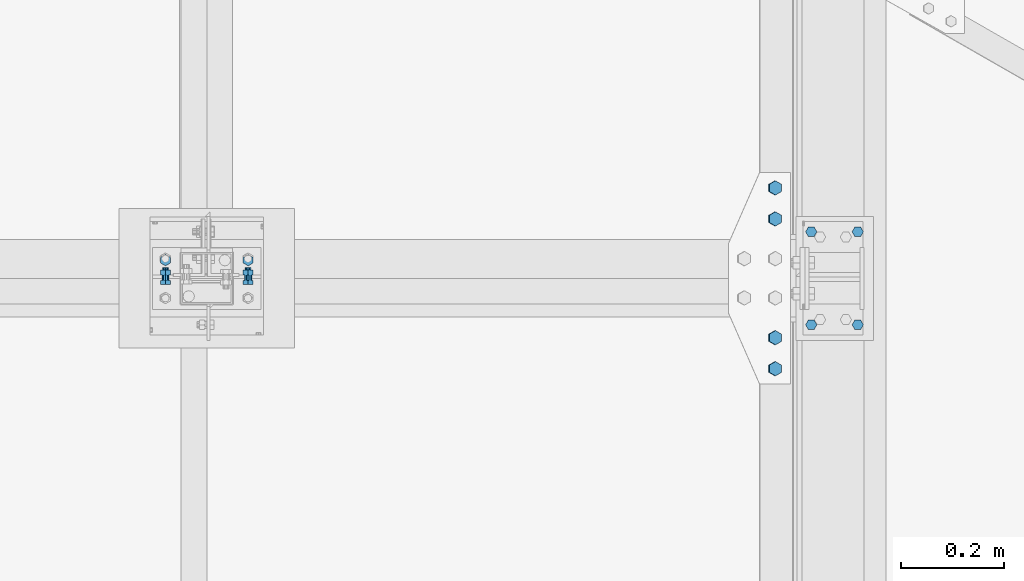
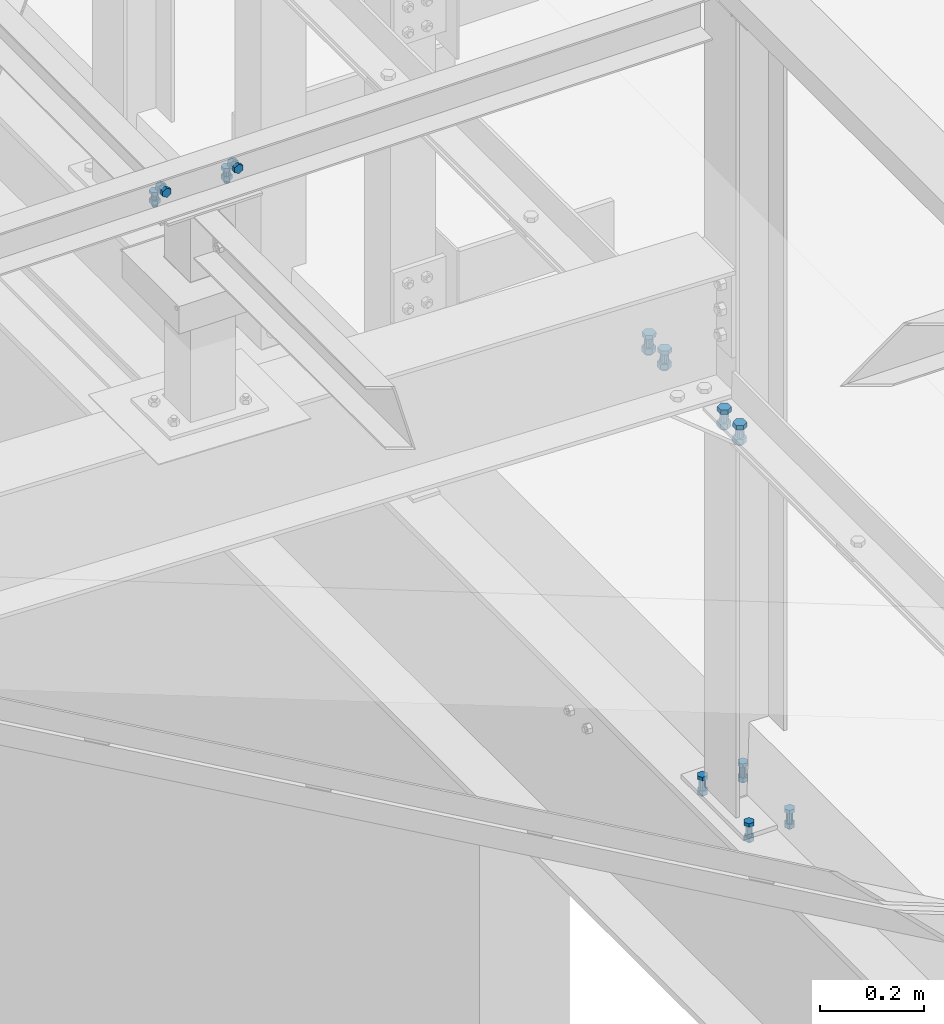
# One storey, part 360 of 3134: 5 mechanical fasteners, 4 elements without a shape of their own.
"""IFC2X3 building model written with IfcOpenShell, lengths in millimetres."""

from ifc_helpers import new_model, si_unit, frame, origin_with_axes, place, context, subcontext, project, spatial, faceted_brep, source, transform, mapped, material, type_object, element, aggregate, save


model = new_model("IFC2X3")

# Units and contexts
model_context = context("Model", 3, precision=1e-05, world=origin_with_axes())
body_context = subcontext(model_context, "Body", "Model", "MODEL_VIEW")
ifc_project = project(units=[si_unit("LENGTHUNIT", "METRE", prefix="MILLI"), si_unit("AREAUNIT", "SQUARE_METRE"), si_unit("VOLUMEUNIT", "CUBIC_METRE"), si_unit("MASSUNIT", "GRAM", prefix="KILO"), si_unit("TIMEUNIT", "SECOND"), si_unit("PLANEANGLEUNIT", "RADIAN"), si_unit("SOLIDANGLEUNIT", "STERADIAN"), si_unit("THERMODYNAMICTEMPERATUREUNIT", "DEGREE_CELSIUS"), si_unit("LUMINOUSINTENSITYUNIT", "LUMEN")], contexts=[model_context])

# Site, building, storey
site_placement = place(None, origin_with_axes())
site = spatial("IfcSite", under=ifc_project, at=site_placement, CompositionType="ELEMENT")
building_placement = place(site_placement, origin_with_axes())
building = spatial("IfcBuilding", under=site, at=building_placement, Name="Undefined", CompositionType="ELEMENT")
storey_placement = place(building_placement, origin_with_axes())
storey = spatial("IfcBuildingStorey", under=building, at=storey_placement, Name="Undefined", CompositionType="ELEMENT", Elevation=0.0)

# Assembly, mechanical fasteners
assembly_1_placement = place(storey_placement, origin_with_axes())
assembly_1 = element("IfcElementAssembly", 1, at=assembly_1_placement, inside=storey, AssemblyPlace="NOTDEFINED", PredefinedType="RIGID_FRAME")
ifc_material = material(Name="8.8")
mechanical_fastener_type = type_object("IfcMechanicalFastenerType", Name="Bolt assembly")
shared_shape_1 = source(origin_with_axes(), body_context, "Body", "Brep", [
    faceted_brep([(10.9696551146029, -14.0, 0.0), (5.48482755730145, -14.0, 9.5), (-5.48482755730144, -14.0, 9.5), (-10.9696551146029, -14.0, 1.34339530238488e-15), (-5.48482755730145, -14.0, -9.5), (5.48482755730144, -14.0, -9.50000000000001), (5.48482755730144, -6.0, -9.50000000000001), (-5.48482755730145, -6.0, -9.5), (-10.9696551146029, -6.0, 1.34339530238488e-15), (-5.48482755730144, -6.0, 9.5), (5.48482755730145, -6.0, 9.5), (10.9696551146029, -6.0, 0.0), (6.0, -6.0, 0.0), (5.19615242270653, -6.0, 3.00000000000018), (2.99999999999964, -6.0, 5.19615242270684), (-6.21801588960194e-13, -6.0, 6.0), (-3.00000000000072, -6.0, 5.19615242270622), (-5.19615242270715, -6.0, 2.9999999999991), (-6.0, -6.0, -1.24360317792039e-12), (-5.19615242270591, -6.0, -3.00000000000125), (-2.99999999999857, -6.0, -5.19615242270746), (1.85874342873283e-12, -6.0, -6.0), (3.00000000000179, -6.0, -5.1961524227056), (5.19615242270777, -6.0, -2.99999999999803), (5.19615242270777, 24.0, -2.99999999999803), (3.00000000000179, 24.0, -5.1961524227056), (1.85874342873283e-12, 24.0, -6.0), (-2.99999999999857, 24.0, -5.19615242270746), (-5.19615242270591, 24.0, -3.00000000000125), (-6.0, 24.0, -1.24360317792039e-12), (-5.19615242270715, 24.0, 2.9999999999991), (-3.00000000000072, 24.0, 5.19615242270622), (-6.21801588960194e-13, 24.0, 6.0), (2.99999999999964, 24.0, 5.19615242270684), (5.19615242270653, 24.0, 3.00000000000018), (6.0, 24.0, 0.0), (10.9696551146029, 6.00000000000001, 0.0), (5.48482755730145, 6.00000000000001, 9.5), (-5.48482755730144, 6.00000000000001, 9.5), (-10.9696551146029, 6.00000000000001, 1.34339530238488e-15), (-5.48482755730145, 6.00000000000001, -9.5), (5.48482755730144, 6.00000000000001, -9.50000000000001), (5.48482755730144, 16.0, -9.50000000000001), (-5.48482755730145, 16.0, -9.5), (-10.9696551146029, 16.0, 1.34339530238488e-15), (-5.48482755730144, 16.0, 9.5), (5.48482755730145, 16.0, 9.5), (10.9696551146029, 16.0, 0.0)], [[[0, 1, 2, 3, 4, 5]], [[6, 7, 8, 9, 10, 11]], [[0, 11, 10, 1]], [[1, 10, 9, 2]], [[2, 9, 8, 3]], [[3, 8, 7, 4]], [[4, 7, 6, 5]], [[5, 6, 11, 0]], [[12, 13, 14, 15, 16, 17, 18, 19, 20, 21, 22, 23]], [[24, 25, 26, 27, 28, 29, 30, 31, 32, 33, 34, 35]], [[12, 35, 34, 13]], [[13, 34, 33, 14]], [[14, 33, 32, 15]], [[15, 32, 31, 16]], [[16, 31, 30, 17]], [[17, 30, 29, 18]], [[18, 29, 28, 19]], [[19, 28, 27, 20]], [[20, 27, 26, 21]], [[21, 26, 25, 22]], [[22, 25, 24, 23]], [[23, 24, 35, 12]], [[36, 37, 38, 39, 40, 41]], [[42, 43, 44, 45, 46, 47]], [[36, 47, 46, 37]], [[37, 46, 45, 38]], [[38, 45, 44, 39]], [[39, 44, 43, 40]], [[40, 43, 42, 41]], [[41, 42, 47, 36]]]),
    faceted_brep([(7.0, -0.1, 0.0), (6.06217782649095, -0.1, 3.50000000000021), (3.49999999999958, -0.1, 6.06217782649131), (-7.25435187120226e-13, -0.1, 7.0), (-3.50000000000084, -0.1, 6.06217782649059), (-6.06217782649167, -0.1, 3.49999999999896), (-7.0, -0.1, -1.45087037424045e-12), (-6.06217782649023, -0.1, -3.50000000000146), (-3.49999999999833, -0.1, -6.06217782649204), (2.1685340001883e-12, -0.1, -7.0), (3.50000000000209, -0.1, -6.06217782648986), (6.0621778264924, -0.1, -3.4999999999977), (6.0621778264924, 6.00000000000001, -3.4999999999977), (3.50000000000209, 6.00000000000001, -6.06217782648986), (2.1685340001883e-12, 6.00000000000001, -7.0), (-3.49999999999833, 6.00000000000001, -6.06217782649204), (-6.06217782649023, 6.00000000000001, -3.50000000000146), (-7.0, 6.00000000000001, -1.45087037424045e-12), (-6.06217782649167, 6.00000000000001, 3.49999999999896), (-3.50000000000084, 6.00000000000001, 6.06217782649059), (-7.25435187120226e-13, 6.00000000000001, 7.0), (3.49999999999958, 6.00000000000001, 6.06217782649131), (6.06217782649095, 6.00000000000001, 3.50000000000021), (7.0, 6.00000000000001, 0.0), (7.0, -5.9, 0.0), (6.06217782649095, -5.9, 3.50000000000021), (3.49999999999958, -5.9, 6.06217782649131), (-7.25435187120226e-13, -5.9, 7.0), (-3.50000000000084, -5.9, 6.06217782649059), (-6.06217782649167, -5.9, 3.49999999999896), (-7.0, -5.9, -1.45087037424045e-12), (-6.06217782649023, -5.9, -3.50000000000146), (-3.49999999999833, -5.9, -6.06217782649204), (2.1685340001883e-12, -5.9, -7.0), (3.50000000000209, -5.9, -6.06217782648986), (6.0621778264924, -5.9, -3.4999999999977), (6.0621778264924, 0.0999999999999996, -3.4999999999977), (3.50000000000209, 0.0999999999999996, -6.06217782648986), (2.1685340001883e-12, 0.0999999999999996, -7.0), (-3.49999999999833, 0.0999999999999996, -6.06217782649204), (-6.06217782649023, 0.0999999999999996, -3.50000000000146), (-7.0, 0.0999999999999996, -1.45087037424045e-12), (-6.06217782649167, 0.0999999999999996, 3.49999999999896), (-3.50000000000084, 0.0999999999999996, 6.06217782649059), (-7.25435187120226e-13, 0.0999999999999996, 7.0), (3.49999999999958, 0.0999999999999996, 6.06217782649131), (6.06217782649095, 0.0999999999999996, 3.50000000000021), (7.0, 0.0999999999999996, 0.0)], [[[0, 1, 2, 3, 4, 5, 6, 7, 8, 9, 10, 11]], [[12, 13, 14, 15, 16, 17, 18, 19, 20, 21, 22, 23]], [[0, 23, 22, 1]], [[1, 22, 21, 2]], [[2, 21, 20, 3]], [[3, 20, 19, 4]], [[4, 19, 18, 5]], [[5, 18, 17, 6]], [[6, 17, 16, 7]], [[7, 16, 15, 8]], [[8, 15, 14, 9]], [[9, 14, 13, 10]], [[10, 13, 12, 11]], [[11, 12, 23, 0]], [[24, 25, 26, 27, 28, 29, 30, 31, 32, 33, 34, 35]], [[36, 37, 38, 39, 40, 41, 42, 43, 44, 45, 46, 47]], [[24, 47, 46, 25]], [[25, 46, 45, 26]], [[26, 45, 44, 27]], [[27, 44, 43, 28]], [[28, 43, 42, 29]], [[29, 42, 41, 30]], [[30, 41, 40, 31]], [[31, 40, 39, 32]], [[32, 39, 38, 33]], [[33, 38, 37, 34]], [[34, 37, 36, 35]], [[35, 36, 47, 24]]]),
])
mechanical_fastener_1_placement = place(assembly_1_placement, frame((70600.0, 17125.0, 5850.0), z_axis=(1.0, 0.0, 0.0), x_axis=(0.0, -1.0, 0.0)))
mechanical_fastener_1 = element("IfcMechanicalFastener", 2, at=mechanical_fastener_1_placement, type_object=mechanical_fastener_type, material=ifc_material, Name="Bolt assembly", NominalDiameter=12.0, NominalLength=30.0, context=body_context, shape_type="MappedRepresentation", body=[
    mapped(shared_shape_1, transform((0.0, -5.32963895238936e-10, -79.9999999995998))),
    mapped(shared_shape_1, transform((0.0, 5.3114490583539e-10, 79.9999999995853))),
])
shared_shape_2 = source(origin_with_axes(), body_context, "Body", "Brep", [
    faceted_brep([(10.9696551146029, -12.0, 0.0), (5.48482755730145, -12.0, 9.5), (-5.48482755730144, -12.0, 9.5), (-10.9696551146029, -12.0, 1.34339530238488e-15), (-5.48482755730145, -12.0, -9.5), (5.48482755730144, -12.0, -9.50000000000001), (5.48482755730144, -4.0, -9.50000000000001), (-5.48482755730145, -4.0, -9.5), (-10.9696551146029, -4.0, 1.34339530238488e-15), (-5.48482755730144, -4.0, 9.5), (5.48482755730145, -4.0, 9.5), (10.9696551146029, -4.0, 0.0), (6.0, -4.0, 0.0), (5.19615242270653, -4.0, 3.00000000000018), (2.99999999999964, -4.0, 5.19615242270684), (-6.21801588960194e-13, -4.0, 6.0), (-3.00000000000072, -4.0, 5.19615242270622), (-5.19615242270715, -4.0, 2.9999999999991), (-6.0, -4.0, -1.24360317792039e-12), (-5.19615242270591, -4.0, -3.00000000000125), (-2.99999999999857, -4.0, -5.19615242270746), (1.85874342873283e-12, -4.0, -6.0), (3.00000000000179, -4.0, -5.1961524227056), (5.19615242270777, -4.0, -2.99999999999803), (5.19615242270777, 21.0, -2.99999999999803), (3.00000000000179, 21.0, -5.1961524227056), (1.85874342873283e-12, 21.0, -6.0), (-2.99999999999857, 21.0, -5.19615242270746), (-5.19615242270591, 21.0, -3.00000000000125), (-6.0, 21.0, -1.24360317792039e-12), (-5.19615242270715, 21.0, 2.9999999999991), (-3.00000000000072, 21.0, 5.19615242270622), (-6.21801588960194e-13, 21.0, 6.0), (2.99999999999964, 21.0, 5.19615242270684), (5.19615242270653, 21.0, 3.00000000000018), (6.0, 21.0, 0.0), (10.9696551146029, 6.00000000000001, 0.0), (5.48482755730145, 6.00000000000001, 9.5), (-5.48482755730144, 6.00000000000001, 9.5), (-10.9696551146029, 6.00000000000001, 1.34339530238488e-15), (-5.48482755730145, 6.00000000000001, -9.5), (5.48482755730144, 6.00000000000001, -9.50000000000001), (5.48482755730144, 16.0, -9.50000000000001), (-5.48482755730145, 16.0, -9.5), (-10.9696551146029, 16.0, 1.34339530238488e-15), (-5.48482755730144, 16.0, 9.5), (5.48482755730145, 16.0, 9.5), (10.9696551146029, 16.0, 0.0)], [[[0, 1, 2, 3, 4, 5]], [[6, 7, 8, 9, 10, 11]], [[0, 11, 10, 1]], [[1, 10, 9, 2]], [[2, 9, 8, 3]], [[3, 8, 7, 4]], [[4, 7, 6, 5]], [[5, 6, 11, 0]], [[12, 13, 14, 15, 16, 17, 18, 19, 20, 21, 22, 23]], [[24, 25, 26, 27, 28, 29, 30, 31, 32, 33, 34, 35]], [[12, 35, 34, 13]], [[13, 34, 33, 14]], [[14, 33, 32, 15]], [[15, 32, 31, 16]], [[16, 31, 30, 17]], [[17, 30, 29, 18]], [[18, 29, 28, 19]], [[19, 28, 27, 20]], [[20, 27, 26, 21]], [[21, 26, 25, 22]], [[22, 25, 24, 23]], [[23, 24, 35, 12]], [[36, 37, 38, 39, 40, 41]], [[42, 43, 44, 45, 46, 47]], [[36, 47, 46, 37]], [[37, 46, 45, 38]], [[38, 45, 44, 39]], [[39, 44, 43, 40]], [[40, 43, 42, 41]], [[41, 42, 47, 36]]]),
    faceted_brep([(7.0, -3.9, 0.0), (6.06217782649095, -3.9, 3.50000000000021), (3.49999999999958, -3.9, 6.06217782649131), (-7.25435187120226e-13, -3.9, 7.0), (-3.50000000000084, -3.9, 6.06217782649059), (-6.06217782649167, -3.9, 3.49999999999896), (-7.0, -3.9, -1.45087037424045e-12), (-6.06217782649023, -3.9, -3.50000000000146), (-3.49999999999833, -3.9, -6.06217782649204), (2.1685340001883e-12, -3.9, -7.0), (3.50000000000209, -3.9, -6.06217782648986), (6.0621778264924, -3.9, -3.4999999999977), (6.0621778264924, 0.0999999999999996, -3.4999999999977), (3.50000000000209, 0.0999999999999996, -6.06217782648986), (2.1685340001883e-12, 0.0999999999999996, -7.0), (-3.49999999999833, 0.0999999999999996, -6.06217782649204), (-6.06217782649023, 0.0999999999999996, -3.50000000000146), (-7.0, 0.0999999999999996, -1.45087037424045e-12), (-6.06217782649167, 0.0999999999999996, 3.49999999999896), (-3.50000000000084, 0.0999999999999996, 6.06217782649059), (-7.25435187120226e-13, 0.0999999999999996, 7.0), (3.49999999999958, 0.0999999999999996, 6.06217782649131), (6.06217782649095, 0.0999999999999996, 3.50000000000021), (7.0, 0.0999999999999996, 0.0), (7.0, -0.1, 0.0), (6.06217782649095, -0.1, 3.50000000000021), (3.49999999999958, -0.1, 6.06217782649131), (-7.25435187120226e-13, -0.1, 7.0), (-3.50000000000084, -0.1, 6.06217782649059), (-6.06217782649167, -0.1, 3.49999999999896), (-7.0, -0.1, -1.45087037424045e-12), (-6.06217782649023, -0.1, -3.50000000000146), (-3.49999999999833, -0.1, -6.06217782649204), (2.1685340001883e-12, -0.1, -7.0), (3.50000000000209, -0.1, -6.06217782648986), (6.0621778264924, -0.1, -3.4999999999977), (6.0621778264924, 6.00000000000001, -3.4999999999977), (3.50000000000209, 6.00000000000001, -6.06217782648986), (2.1685340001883e-12, 6.00000000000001, -7.0), (-3.49999999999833, 6.00000000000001, -6.06217782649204), (-6.06217782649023, 6.00000000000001, -3.50000000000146), (-7.0, 6.00000000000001, -1.45087037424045e-12), (-6.06217782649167, 6.00000000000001, 3.49999999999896), (-3.50000000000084, 6.00000000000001, 6.06217782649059), (-7.25435187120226e-13, 6.00000000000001, 7.0), (3.49999999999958, 6.00000000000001, 6.06217782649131), (6.06217782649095, 6.00000000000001, 3.50000000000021), (7.0, 6.00000000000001, 0.0)], [[[0, 1, 2, 3, 4, 5, 6, 7, 8, 9, 10, 11]], [[12, 13, 14, 15, 16, 17, 18, 19, 20, 21, 22, 23]], [[0, 23, 22, 1]], [[1, 22, 21, 2]], [[2, 21, 20, 3]], [[3, 20, 19, 4]], [[4, 19, 18, 5]], [[5, 18, 17, 6]], [[6, 17, 16, 7]], [[7, 16, 15, 8]], [[8, 15, 14, 9]], [[9, 14, 13, 10]], [[10, 13, 12, 11]], [[11, 12, 23, 0]], [[24, 25, 26, 27, 28, 29, 30, 31, 32, 33, 34, 35]], [[36, 37, 38, 39, 40, 41, 42, 43, 44, 45, 46, 47]], [[24, 47, 46, 25]], [[25, 46, 45, 26]], [[26, 45, 44, 27]], [[27, 44, 43, 28]], [[28, 43, 42, 29]], [[29, 42, 41, 30]], [[30, 41, 40, 31]], [[31, 40, 39, 32]], [[32, 39, 38, 33]], [[33, 38, 37, 34]], [[34, 37, 36, 35]], [[35, 36, 47, 24]]]),
])
mechanical_fastener_2_placement = place(assembly_1_placement, frame((70600.0, 17090.0, 5885.0), z_axis=(1.0, 0.0, 0.0), x_axis=(0.0, 0.0, -1.0)))
mechanical_fastener_2 = element("IfcMechanicalFastener", 3, at=mechanical_fastener_2_placement, type_object=mechanical_fastener_type, material=ifc_material, Name="Bolt assembly", NominalDiameter=12.0, NominalLength=25.0, context=body_context, shape_type="MappedRepresentation", body=[
    mapped(shared_shape_2, transform((0.0, -5.32963895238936e-10, -79.9999999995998))),
    mapped(shared_shape_2, transform((0.0, 5.3114490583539e-10, 79.9999999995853))),
])
aggregate(assembly_1, [mechanical_fastener_2, mechanical_fastener_1])

# Assembly, mechanical fastener
assembly_2_placement = place(storey_placement, origin_with_axes())
assembly_2 = element("IfcElementAssembly", 4, at=assembly_2_placement, inside=storey, Name="IPE500", AssemblyPlace="NOTDEFINED", PredefinedType="RIGID_FRAME")
shared_shape_3 = source(origin_with_axes(), body_context, "Body", "Brep", [
    faceted_brep([(10.9696551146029, -18.0, 0.0), (5.48482755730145, -18.0, 9.5), (-5.48482755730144, -18.0, 9.5), (-10.9696551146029, -18.0, 1.34339530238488e-15), (-5.48482755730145, -18.0, -9.5), (5.48482755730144, -18.0, -9.50000000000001), (5.48482755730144, -10.0, -9.50000000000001), (-5.48482755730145, -10.0, -9.5), (-10.9696551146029, -10.0, 1.34339530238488e-15), (-5.48482755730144, -10.0, 9.5), (5.48482755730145, -10.0, 9.5), (10.9696551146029, -10.0, 0.0), (6.0, -10.0, 0.0), (5.19615242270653, -10.0, 3.00000000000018), (2.99999999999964, -10.0, 5.19615242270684), (-6.21801588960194e-13, -10.0, 6.0), (-3.00000000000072, -10.0, 5.19615242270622), (-5.19615242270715, -10.0, 2.9999999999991), (-6.0, -10.0, -1.24360317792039e-12), (-5.19615242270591, -10.0, -3.00000000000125), (-2.99999999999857, -10.0, -5.19615242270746), (1.85874342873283e-12, -10.0, -6.0), (3.00000000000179, -10.0, -5.1961524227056), (5.19615242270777, -10.0, -2.99999999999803), (5.19615242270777, 30.0, -2.99999999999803), (3.00000000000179, 30.0, -5.1961524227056), (1.85874342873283e-12, 30.0, -6.0), (-2.99999999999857, 30.0, -5.19615242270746), (-5.19615242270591, 30.0, -3.00000000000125), (-6.0, 30.0, -1.24360317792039e-12), (-5.19615242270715, 30.0, 2.9999999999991), (-3.00000000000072, 30.0, 5.19615242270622), (-6.21801588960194e-13, 30.0, 6.0), (2.99999999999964, 30.0, 5.19615242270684), (5.19615242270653, 30.0, 3.00000000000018), (6.0, 30.0, 0.0), (10.9696551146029, 16.0, 0.0), (5.48482755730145, 16.0, 9.5), (-5.48482755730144, 16.0, 9.5), (-10.9696551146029, 16.0, 1.34339530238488e-15), (-5.48482755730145, 16.0, -9.5), (5.48482755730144, 16.0, -9.50000000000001), (5.48482755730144, 26.0000003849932, -9.50000000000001), (-5.48482755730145, 26.0000003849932, -9.5), (-10.9696551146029, 26.0000003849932, 1.34339530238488e-15), (-5.48482755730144, 26.0000003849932, 9.5), (5.48482755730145, 26.0000003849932, 9.5), (10.9696551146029, 26.0000003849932, 0.0)], [[[0, 1, 2, 3, 4, 5]], [[6, 7, 8, 9, 10, 11]], [[0, 11, 10, 1]], [[1, 10, 9, 2]], [[2, 9, 8, 3]], [[3, 8, 7, 4]], [[4, 7, 6, 5]], [[5, 6, 11, 0]], [[12, 13, 14, 15, 16, 17, 18, 19, 20, 21, 22, 23]], [[24, 25, 26, 27, 28, 29, 30, 31, 32, 33, 34, 35]], [[12, 35, 34, 13]], [[13, 34, 33, 14]], [[14, 33, 32, 15]], [[15, 32, 31, 16]], [[16, 31, 30, 17]], [[17, 30, 29, 18]], [[18, 29, 28, 19]], [[19, 28, 27, 20]], [[20, 27, 26, 21]], [[21, 26, 25, 22]], [[22, 25, 24, 23]], [[23, 24, 35, 12]], [[36, 37, 38, 39, 40, 41]], [[42, 43, 44, 45, 46, 47]], [[36, 47, 46, 37]], [[37, 46, 45, 38]], [[38, 45, 44, 39]], [[39, 44, 43, 40]], [[40, 43, 42, 41]], [[41, 42, 47, 36]]]),
    faceted_brep([(7.0, -9.89999913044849, 0.0), (6.06217782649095, -9.89999913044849, 3.50000000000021), (3.49999999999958, -9.89999913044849, 6.06217782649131), (-7.25435187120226e-13, -9.89999913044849, 7.0), (-3.50000000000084, -9.89999913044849, 6.06217782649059), (-6.06217782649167, -9.89999913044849, 3.49999999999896), (-7.0, -9.89999913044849, -1.45087037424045e-12), (-6.06217782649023, -9.89999913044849, -3.50000000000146), (-3.49999999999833, -9.89999913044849, -6.06217782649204), (2.1685340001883e-12, -9.89999913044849, -7.0), (3.50000000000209, -9.89999913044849, -6.06217782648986), (6.0621778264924, -9.89999913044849, -3.4999999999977), (6.0621778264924, 0.0999999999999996, -3.4999999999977), (3.50000000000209, 0.0999999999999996, -6.06217782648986), (2.1685340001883e-12, 0.0999999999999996, -7.0), (-3.49999999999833, 0.0999999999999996, -6.06217782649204), (-6.06217782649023, 0.0999999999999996, -3.50000000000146), (-7.0, 0.0999999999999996, -1.45087037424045e-12), (-6.06217782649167, 0.0999999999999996, 3.49999999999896), (-3.50000000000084, 0.0999999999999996, 6.06217782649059), (-7.25435187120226e-13, 0.0999999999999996, 7.0), (3.49999999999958, 0.0999999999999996, 6.06217782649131), (6.06217782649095, 0.0999999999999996, 3.50000000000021), (7.0, 0.0999999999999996, 0.0), (7.0, -0.1, 0.0), (6.06217782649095, -0.1, 3.50000000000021), (3.49999999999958, -0.1, 6.06217782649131), (-7.25435187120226e-13, -0.1, 7.0), (-3.50000000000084, -0.1, 6.06217782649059), (-6.06217782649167, -0.1, 3.49999999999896), (-7.0, -0.1, -1.45087037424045e-12), (-6.06217782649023, -0.1, -3.50000000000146), (-3.49999999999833, -0.1, -6.06217782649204), (2.1685340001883e-12, -0.1, -7.0), (3.50000000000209, -0.1, -6.06217782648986), (6.0621778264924, -0.1, -3.4999999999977), (6.0621778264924, 16.0000003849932, -3.4999999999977), (3.50000000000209, 16.0000003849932, -6.06217782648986), (2.1685340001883e-12, 16.0000003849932, -7.0), (-3.49999999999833, 16.0000003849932, -6.06217782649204), (-6.06217782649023, 16.0000003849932, -3.50000000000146), (-7.0, 16.0000003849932, -1.45087037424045e-12), (-6.06217782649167, 16.0000003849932, 3.49999999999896), (-3.50000000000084, 16.0000003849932, 6.06217782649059), (-7.25435187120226e-13, 16.0000003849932, 7.0), (3.49999999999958, 16.0000003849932, 6.06217782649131), (6.06217782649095, 16.0000003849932, 3.50000000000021), (7.0, 16.0000003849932, 0.0)], [[[0, 1, 2, 3, 4, 5, 6, 7, 8, 9, 10, 11]], [[12, 13, 14, 15, 16, 17, 18, 19, 20, 21, 22, 23]], [[0, 23, 22, 1]], [[1, 22, 21, 2]], [[2, 21, 20, 3]], [[3, 20, 19, 4]], [[4, 19, 18, 5]], [[5, 18, 17, 6]], [[6, 17, 16, 7]], [[7, 16, 15, 8]], [[8, 15, 14, 9]], [[9, 14, 13, 10]], [[10, 13, 12, 11]], [[11, 12, 23, 0]], [[24, 25, 26, 27, 28, 29, 30, 31, 32, 33, 34, 35]], [[36, 37, 38, 39, 40, 41, 42, 43, 44, 45, 46, 47]], [[24, 47, 46, 25]], [[25, 46, 45, 26]], [[26, 45, 44, 27]], [[27, 44, 43, 28]], [[28, 43, 42, 29]], [[29, 42, 41, 30]], [[30, 41, 40, 31]], [[31, 40, 39, 32]], [[32, 39, 38, 33]], [[33, 38, 37, 34]], [[34, 37, 36, 35]], [[35, 36, 47, 24]]]),
])
mechanical_fastener_3_placement = place(assembly_2_placement, frame((71770.0, 17089.9999999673, 4000.00000038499), z_axis=(0.0, 1.0, 0.0), x_axis=(1.0, 0.0, 0.0)))
mechanical_fastener_3 = element("IfcMechanicalFastener", 5, at=mechanical_fastener_3_placement, type_object=mechanical_fastener_type, material=ifc_material, Name="Bolt assembly", NominalDiameter=12.0, NominalLength=40.0, context=body_context, shape_type="MappedRepresentation", body=[
    mapped(shared_shape_3, transform((0.0, 0.0, -90.0))),
    mapped(shared_shape_3, transform((90.0, 0.0, -90.0))),
    mapped(shared_shape_3, transform((0.0, 0.0, 90.0))),
    mapped(shared_shape_3, transform((90.0, 0.0, 90.0))),
])
aggregate(assembly_2, [mechanical_fastener_3])

assembly_3_placement = place(storey_placement, origin_with_axes())
assembly_3 = element("IfcElementAssembly", 6, at=assembly_3_placement, inside=storey, AssemblyPlace="NOTDEFINED", PredefinedType="RIGID_FRAME")
shared_shape_4 = source(origin_with_axes(), body_context, "Body", "Brep", [
    faceted_brep([(13.856406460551, -21.0000017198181, 0.0), (6.92820323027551, -21.0000017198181, 12.0), (-6.92820323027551, -21.0000017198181, 12.0), (-13.856406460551, -21.0000017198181, 1.69692038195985e-15), (-6.92820323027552, -21.0000017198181, -12.0), (6.9282032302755, -21.0000017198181, -12.0), (6.9282032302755, -11.0000017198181, -12.0), (-6.92820323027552, -11.0000017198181, -12.0), (-13.856406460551, -11.0000017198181, 1.69692038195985e-15), (-6.92820323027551, -11.0000017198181, 12.0), (6.92820323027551, -11.0000017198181, 12.0), (13.856406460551, -11.0000017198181, 0.0), (8.0, -11.0000017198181, 0.0), (6.92820323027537, -11.0000017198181, 4.00000000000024), (3.99999999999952, -11.0000017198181, 6.92820323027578), (-8.29068785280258e-13, -11.0000017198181, 8.0), (-4.00000000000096, -11.0000017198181, 6.92820323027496), (-6.9282032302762, -11.0000017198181, 3.99999999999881), (-8.0, -11.0000017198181, -1.65813757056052e-12), (-6.92820323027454, -11.0000017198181, -4.00000000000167), (-3.99999999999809, -11.0000017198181, -6.92820323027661), (2.47832457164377e-12, -11.0000017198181, -8.0), (4.00000000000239, -11.0000017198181, -6.92820323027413), (6.92820323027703, -11.0000017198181, -3.99999999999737), (6.92820323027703, 29.0, -3.99999999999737), (4.00000000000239, 29.0, -6.92820323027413), (2.47832457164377e-12, 29.0, -8.0), (-3.99999999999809, 29.0, -6.92820323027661), (-6.92820323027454, 29.0, -4.00000000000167), (-8.0, 29.0, -1.65813757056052e-12), (-6.9282032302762, 29.0, 3.99999999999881), (-4.00000000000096, 29.0, 6.92820323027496), (-8.29068785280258e-13, 29.0, 8.0), (3.99999999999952, 29.0, 6.92820323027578), (6.92820323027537, 29.0, 4.00000000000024), (8.0, 29.0, 0.0), (13.856406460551, 10.9979999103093, 0.0), (6.92820323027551, 10.9979999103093, 12.0), (-6.92820323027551, 10.9979999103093, 12.0), (-13.856406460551, 10.9979999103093, 1.69692038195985e-15), (-6.92820323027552, 10.9979999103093, -12.0), (6.9282032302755, 10.9979999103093, -12.0), (6.9282032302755, 23.9979999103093, -12.0), (-6.92820323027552, 23.9979999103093, -12.0), (-13.856406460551, 23.9979999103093, 1.69692038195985e-15), (-6.92820323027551, 23.9979999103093, 12.0), (6.92820323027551, 23.9979999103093, 12.0), (13.856406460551, 23.9979999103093, 0.0)], [[[0, 1, 2, 3, 4, 5]], [[6, 7, 8, 9, 10, 11]], [[0, 11, 10, 1]], [[1, 10, 9, 2]], [[2, 9, 8, 3]], [[3, 8, 7, 4]], [[4, 7, 6, 5]], [[5, 6, 11, 0]], [[12, 13, 14, 15, 16, 17, 18, 19, 20, 21, 22, 23]], [[24, 25, 26, 27, 28, 29, 30, 31, 32, 33, 34, 35]], [[12, 35, 34, 13]], [[13, 34, 33, 14]], [[14, 33, 32, 15]], [[15, 32, 31, 16]], [[16, 31, 30, 17]], [[17, 30, 29, 18]], [[18, 29, 28, 19]], [[19, 28, 27, 20]], [[20, 27, 26, 21]], [[21, 26, 25, 22]], [[22, 25, 24, 23]], [[23, 24, 35, 12]], [[36, 37, 38, 39, 40, 41]], [[42, 43, 44, 45, 46, 47]], [[36, 47, 46, 37]], [[37, 46, 45, 38]], [[38, 45, 44, 39]], [[39, 44, 43, 40]], [[40, 43, 42, 41]], [[41, 42, 47, 36]]]),
    faceted_brep([(9.0, -10.9000017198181, 0.0), (7.79422863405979, -10.9000017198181, 4.50000000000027), (4.49999999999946, -10.9000017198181, 7.79422863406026), (-9.3270238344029e-13, -10.9000017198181, 9.0), (-4.50000000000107, -10.9000017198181, 7.79422863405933), (-7.79422863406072, -10.9000017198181, 4.49999999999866), (-9.0, -10.9000017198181, -1.86540476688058e-12), (-7.79422863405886, -10.9000017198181, -4.50000000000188), (-4.49999999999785, -10.9000017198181, -7.79422863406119), (2.78811514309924e-12, -10.9000017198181, -9.0), (4.50000000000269, -10.9000017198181, -7.7942286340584), (7.79422863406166, -10.9000017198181, -4.49999999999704), (7.79422863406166, -3.9, -4.49999999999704), (4.50000000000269, -3.9, -7.7942286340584), (2.78811514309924e-12, -3.9, -9.0), (-4.49999999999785, -3.9, -7.79422863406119), (-7.79422863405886, -3.9, -4.50000000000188), (-9.0, -3.9, -1.86540476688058e-12), (-7.79422863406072, -3.9, 4.49999999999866), (-4.50000000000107, -3.9, 7.79422863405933), (-9.3270238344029e-13, -3.9, 9.0), (4.49999999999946, -3.9, 7.79422863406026), (7.79422863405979, -3.9, 4.50000000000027), (9.0, -3.9, 0.0), (9.0, 3.89799991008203, 0.0), (7.79422863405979, 3.89799991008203, 4.50000000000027), (4.49999999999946, 3.89799991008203, 7.79422863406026), (-9.3270238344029e-13, 3.89799991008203, 9.0), (-4.50000000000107, 3.89799991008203, 7.79422863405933), (-7.79422863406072, 3.89799991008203, 4.49999999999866), (-9.0, 3.89799991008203, -1.86540476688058e-12), (-7.79422863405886, 3.89799991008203, -4.50000000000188), (-4.49999999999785, 3.89799991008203, -7.79422863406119), (2.78811514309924e-12, 3.89799991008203, -9.0), (4.50000000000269, 3.89799991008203, -7.7942286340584), (7.79422863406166, 3.89799991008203, -4.49999999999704), (7.79422863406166, 10.9979999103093, -4.49999999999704), (4.50000000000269, 10.9979999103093, -7.7942286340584), (2.78811514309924e-12, 10.9979999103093, -9.0), (-4.49999999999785, 10.9979999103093, -7.79422863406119), (-7.79422863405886, 10.9979999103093, -4.50000000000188), (-9.0, 10.9979999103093, -1.86540476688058e-12), (-7.79422863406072, 10.9979999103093, 4.49999999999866), (-4.50000000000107, 10.9979999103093, 7.79422863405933), (-9.3270238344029e-13, 10.9979999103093, 9.0), (4.49999999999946, 10.9979999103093, 7.79422863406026), (7.79422863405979, 10.9979999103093, 4.50000000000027), (9.0, 10.9979999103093, 0.0), (9.0, -3.99999624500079, 0.0), (7.79422863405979, -3.99999624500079, 4.50000000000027), (4.49999999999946, -3.99999624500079, 7.79422863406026), (-9.3270238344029e-13, -3.99999624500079, 9.0), (-4.50000000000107, -3.99999624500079, 7.79422863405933), (-7.79422863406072, -3.99999624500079, 4.49999999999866), (-9.0, -3.99999624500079, -1.86540476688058e-12), (-7.79422863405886, -3.99999624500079, -4.50000000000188), (-4.49999999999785, -3.99999624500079, -7.79422863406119), (2.78811514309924e-12, -3.99999624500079, -9.0), (4.50000000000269, -3.99999624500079, -7.7942286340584), (7.79422863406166, -3.99999624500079, -4.49999999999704), (7.79422863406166, 4.00000375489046, -4.49999999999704), (4.50000000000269, 4.00000375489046, -7.7942286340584), (2.78811514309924e-12, 4.00000375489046, -9.0), (-4.49999999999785, 4.00000375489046, -7.79422863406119), (-7.79422863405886, 4.00000375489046, -4.50000000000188), (-9.0, 4.00000375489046, -1.86540476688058e-12), (-7.79422863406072, 4.00000375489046, 4.49999999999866), (-4.50000000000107, 4.00000375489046, 7.79422863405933), (-9.3270238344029e-13, 4.00000375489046, 9.0), (4.49999999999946, 4.00000375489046, 7.79422863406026), (7.79422863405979, 4.00000375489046, 4.50000000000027), (9.0, 4.00000375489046, 0.0)], [[[0, 1, 2, 3, 4, 5, 6, 7, 8, 9, 10, 11]], [[12, 13, 14, 15, 16, 17, 18, 19, 20, 21, 22, 23]], [[0, 23, 22, 1]], [[1, 22, 21, 2]], [[2, 21, 20, 3]], [[3, 20, 19, 4]], [[4, 19, 18, 5]], [[5, 18, 17, 6]], [[6, 17, 16, 7]], [[7, 16, 15, 8]], [[8, 15, 14, 9]], [[9, 14, 13, 10]], [[10, 13, 12, 11]], [[11, 12, 23, 0]], [[24, 25, 26, 27, 28, 29, 30, 31, 32, 33, 34, 35]], [[36, 37, 38, 39, 40, 41, 42, 43, 44, 45, 46, 47]], [[24, 47, 46, 25]], [[25, 46, 45, 26]], [[26, 45, 44, 27]], [[27, 44, 43, 28]], [[28, 43, 42, 29]], [[29, 42, 41, 30]], [[30, 41, 40, 31]], [[31, 40, 39, 32]], [[32, 39, 38, 33]], [[33, 38, 37, 34]], [[34, 37, 36, 35]], [[35, 36, 47, 24]], [[48, 49, 50, 51, 52, 53, 54, 55, 56, 57, 58, 59]], [[60, 61, 62, 63, 64, 65, 66, 67, 68, 69, 70, 71]], [[48, 71, 70, 49]], [[49, 70, 69, 50]], [[50, 69, 68, 51]], [[51, 68, 67, 52]], [[52, 67, 66, 53]], [[53, 66, 65, 54]], [[54, 65, 64, 55]], [[55, 64, 63, 56]], [[56, 63, 62, 57]], [[57, 62, 61, 58]], [[58, 61, 60, 59]], [[59, 60, 71, 48]]]),
])
mechanical_fastener_4_placement = place(assembly_3_placement, frame((71700.0552170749, 16974.9997619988, 5010.20374993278), z_axis=(0.999519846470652, 0.0, -0.0309851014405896), x_axis=(0.0, -1.0, 0.0)))
mechanical_fastener_4 = element("IfcMechanicalFastener", 7, at=mechanical_fastener_4_placement, type_object=mechanical_fastener_type, material=ifc_material, Name="Bolt assembly", NominalDiameter=16.0, NominalLength=40.0, context=body_context, shape_type="MappedRepresentation", body=[
    mapped(shared_shape_4, transform((0.0, 0.0, 0.0))),
    mapped(shared_shape_4, transform((59.9999999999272, 0.0, 5.40239852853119e-10))),
])
aggregate(assembly_3, [mechanical_fastener_4])

assembly_4_placement = place(storey_placement, origin_with_axes())
assembly_4 = element("IfcElementAssembly", 8, at=assembly_4_placement, inside=storey, AssemblyPlace="NOTDEFINED", PredefinedType="RIGID_FRAME")
mechanical_fastener_5_placement = place(assembly_4_placement, frame((71700.0552170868, 17204.9999999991, 5010.20374993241), z_axis=(-0.999519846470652, 0.0, 0.0309851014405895), x_axis=(0.0, 1.0, 0.0)))
mechanical_fastener_5 = element("IfcMechanicalFastener", 9, at=mechanical_fastener_5_placement, type_object=mechanical_fastener_type, material=ifc_material, Name="Bolt assembly", NominalDiameter=16.0, NominalLength=40.0, context=body_context, shape_type="MappedRepresentation", body=[
    mapped(shared_shape_4, transform((0.0, 0.0, 0.0))),
    mapped(shared_shape_4, transform((59.9999999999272, 0.0, 5.40239852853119e-10))),
])
aggregate(assembly_4, [mechanical_fastener_5])

save(model, "model.ifc")
